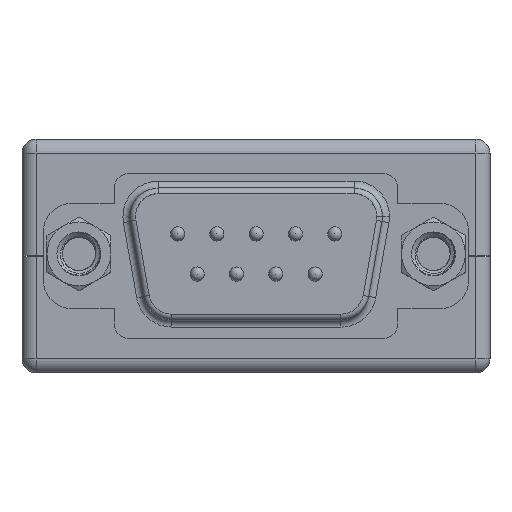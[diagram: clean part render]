
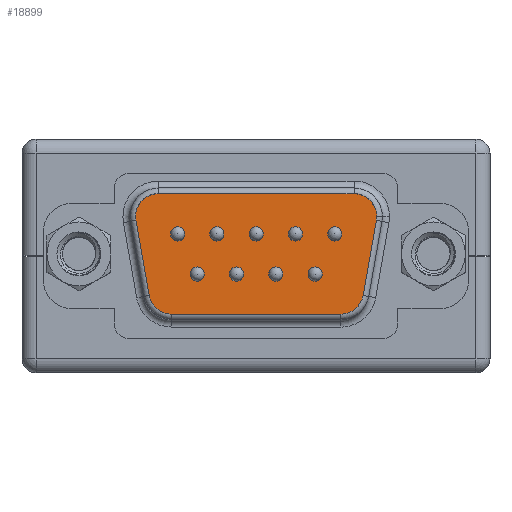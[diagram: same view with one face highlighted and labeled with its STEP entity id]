
A CAD part, top view. The second image highlights one B-rep face of the part: STEP entity #18899.
In plain terms, the highlighted planar face has unit normal (0, 0, 1).
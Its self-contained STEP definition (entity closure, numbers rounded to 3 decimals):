
#358=FACE_BOUND('',#2236,.T.);
#359=FACE_BOUND('',#2237,.T.);
#360=FACE_BOUND('',#2238,.T.);
#361=FACE_BOUND('',#2239,.T.);
#362=FACE_BOUND('',#2240,.T.);
#363=FACE_BOUND('',#2241,.T.);
#364=FACE_BOUND('',#2242,.T.);
#365=FACE_BOUND('',#2243,.T.);
#366=FACE_BOUND('',#2244,.T.);
#430=PLANE('',#20146);
#1079=FACE_OUTER_BOUND('',#2235,.T.);
#2235=EDGE_LOOP('',(#12809,#12810,#12811,#12812,#12813,#12814,#12815,#12816,
#12817));
#2236=EDGE_LOOP('',(#12818));
#2237=EDGE_LOOP('',(#12819));
#2238=EDGE_LOOP('',(#12820));
#2239=EDGE_LOOP('',(#12821));
#2240=EDGE_LOOP('',(#12822));
#2241=EDGE_LOOP('',(#12823));
#2242=EDGE_LOOP('',(#12824));
#2243=EDGE_LOOP('',(#12825));
#2244=EDGE_LOOP('',(#12826));
#3408=CIRCLE('',#20079,0.5);
#3410=CIRCLE('',#20082,0.5);
#3412=CIRCLE('',#20085,0.5);
#3414=CIRCLE('',#20088,0.5);
#3416=CIRCLE('',#20091,0.5);
#3418=CIRCLE('',#20094,0.5);
#3420=CIRCLE('',#20097,0.5);
#3422=CIRCLE('',#20100,0.5);
#3424=CIRCLE('',#20103,0.5);
#3454=CIRCLE('',#20147,2.5);
#3455=CIRCLE('',#20148,2.5);
#3456=CIRCLE('',#20149,2.5);
#3457=CIRCLE('',#20150,2.5);
#3458=CIRCLE('',#20151,2.5);
#4620=LINE('',#29350,#6236);
#4621=LINE('',#29354,#6237);
#4622=LINE('',#29358,#6238);
#4623=LINE('',#29363,#6239);
#6236=VECTOR('',#22180,1000.);
#6237=VECTOR('',#22183,1000.);
#6238=VECTOR('',#22186,1000.);
#6239=VECTOR('',#22191,1000.);
#7885=VERTEX_POINT('',#29204);
#7887=VERTEX_POINT('',#29210);
#7889=VERTEX_POINT('',#29216);
#7891=VERTEX_POINT('',#29222);
#7893=VERTEX_POINT('',#29228);
#7895=VERTEX_POINT('',#29234);
#7897=VERTEX_POINT('',#29240);
#7899=VERTEX_POINT('',#29246);
#7901=VERTEX_POINT('',#29252);
#7935=VERTEX_POINT('',#29346);
#7936=VERTEX_POINT('',#29347);
#7937=VERTEX_POINT('',#29349);
#7938=VERTEX_POINT('',#29351);
#7939=VERTEX_POINT('',#29353);
#7940=VERTEX_POINT('',#29355);
#7941=VERTEX_POINT('',#29357);
#7942=VERTEX_POINT('',#29359);
#7943=VERTEX_POINT('',#29361);
#9748=EDGE_CURVE('',#7885,#7885,#3408,.T.);
#9751=EDGE_CURVE('',#7887,#7887,#3410,.T.);
#9754=EDGE_CURVE('',#7889,#7889,#3412,.T.);
#9757=EDGE_CURVE('',#7891,#7891,#3414,.T.);
#9760=EDGE_CURVE('',#7893,#7893,#3416,.T.);
#9763=EDGE_CURVE('',#7895,#7895,#3418,.T.);
#9766=EDGE_CURVE('',#7897,#7897,#3420,.T.);
#9769=EDGE_CURVE('',#7899,#7899,#3422,.T.);
#9772=EDGE_CURVE('',#7901,#7901,#3424,.T.);
#9818=EDGE_CURVE('',#7935,#7936,#3454,.T.);
#9819=EDGE_CURVE('',#7937,#7935,#4620,.T.);
#9820=EDGE_CURVE('',#7938,#7937,#3455,.T.);
#9821=EDGE_CURVE('',#7939,#7938,#4621,.T.);
#9822=EDGE_CURVE('',#7940,#7939,#3456,.T.);
#9823=EDGE_CURVE('',#7941,#7940,#4622,.T.);
#9824=EDGE_CURVE('',#7942,#7941,#3457,.T.);
#9825=EDGE_CURVE('',#7943,#7942,#3458,.T.);
#9826=EDGE_CURVE('',#7936,#7943,#4623,.T.);
#12809=ORIENTED_EDGE('',*,*,#9818,.F.);
#12810=ORIENTED_EDGE('',*,*,#9819,.F.);
#12811=ORIENTED_EDGE('',*,*,#9820,.F.);
#12812=ORIENTED_EDGE('',*,*,#9821,.F.);
#12813=ORIENTED_EDGE('',*,*,#9822,.F.);
#12814=ORIENTED_EDGE('',*,*,#9823,.F.);
#12815=ORIENTED_EDGE('',*,*,#9824,.F.);
#12816=ORIENTED_EDGE('',*,*,#9825,.F.);
#12817=ORIENTED_EDGE('',*,*,#9826,.F.);
#12818=ORIENTED_EDGE('',*,*,#9748,.F.);
#12819=ORIENTED_EDGE('',*,*,#9751,.F.);
#12820=ORIENTED_EDGE('',*,*,#9754,.F.);
#12821=ORIENTED_EDGE('',*,*,#9757,.F.);
#12822=ORIENTED_EDGE('',*,*,#9760,.F.);
#12823=ORIENTED_EDGE('',*,*,#9763,.F.);
#12824=ORIENTED_EDGE('',*,*,#9766,.F.);
#12825=ORIENTED_EDGE('',*,*,#9769,.F.);
#12826=ORIENTED_EDGE('',*,*,#9772,.F.);
#18899=ADVANCED_FACE('',(#1079,#358,#359,#360,#361,#362,#363,#364,#365,
#366),#430,.T.);
#20079=AXIS2_PLACEMENT_3D('',#29205,#22018,#22019);
#20082=AXIS2_PLACEMENT_3D('',#29211,#22025,#22026);
#20085=AXIS2_PLACEMENT_3D('',#29217,#22032,#22033);
#20088=AXIS2_PLACEMENT_3D('',#29223,#22039,#22040);
#20091=AXIS2_PLACEMENT_3D('',#29229,#22046,#22047);
#20094=AXIS2_PLACEMENT_3D('',#29235,#22053,#22054);
#20097=AXIS2_PLACEMENT_3D('',#29241,#22060,#22061);
#20100=AXIS2_PLACEMENT_3D('',#29247,#22067,#22068);
#20103=AXIS2_PLACEMENT_3D('',#29253,#22074,#22075);
#20146=AXIS2_PLACEMENT_3D('',#29345,#22176,#22177);
#20147=AXIS2_PLACEMENT_3D('',#29348,#22178,#22179);
#20148=AXIS2_PLACEMENT_3D('',#29352,#22181,#22182);
#20149=AXIS2_PLACEMENT_3D('',#29356,#22184,#22185);
#20150=AXIS2_PLACEMENT_3D('',#29360,#22187,#22188);
#20151=AXIS2_PLACEMENT_3D('',#29362,#22189,#22190);
#22018=DIRECTION('center_axis',(0.,0.,
1.));
#22019=DIRECTION('ref_axis',(-1.,0.,0.));
#22025=DIRECTION('center_axis',(0.,0.,
1.));
#22026=DIRECTION('ref_axis',(-1.,0.,0.));
#22032=DIRECTION('center_axis',(0.,0.,
1.));
#22033=DIRECTION('ref_axis',(-1.,0.,0.));
#22039=DIRECTION('center_axis',(0.,0.,
1.));
#22040=DIRECTION('ref_axis',(-1.,0.,0.));
#22046=DIRECTION('center_axis',(0.,0.,
1.));
#22047=DIRECTION('ref_axis',(-1.,0.,0.));
#22053=DIRECTION('center_axis',(0.,0.,
1.));
#22054=DIRECTION('ref_axis',(-1.,0.,0.));
#22060=DIRECTION('center_axis',(0.,0.,
1.));
#22061=DIRECTION('ref_axis',(-1.,0.,0.));
#22067=DIRECTION('center_axis',(0.,0.,
1.));
#22068=DIRECTION('ref_axis',(-1.,0.,0.));
#22074=DIRECTION('center_axis',(0.,0.,
1.));
#22075=DIRECTION('ref_axis',(-1.,0.,0.));
#22176=DIRECTION('center_axis',(0.,0.,
1.));
#22177=DIRECTION('ref_axis',(1.,0.,0.));
#22178=DIRECTION('center_axis',(0.,0.,
-1.));
#22179=DIRECTION('ref_axis',(0.,1.,0.));
#22180=DIRECTION('',(-0.174,0.985,0.));
#22181=DIRECTION('center_axis',(0.,0.,
-1.));
#22182=DIRECTION('ref_axis',(-0.985,-0.174,0.));
#22183=DIRECTION('',(-1.,0.,0.));
#22184=DIRECTION('center_axis',(0.,0.,
-1.));
#22185=DIRECTION('ref_axis',(0.,-1.,0.));
#22186=DIRECTION('',(-0.174,-0.985,0.));
#22187=DIRECTION('center_axis',(0.,0.,
-1.));
#22188=DIRECTION('ref_axis',(0.985,-0.174,0.));
#22189=DIRECTION('center_axis',(0.,0.,
-1.));
#22190=DIRECTION('ref_axis',(1.,0.,0.));
#22191=DIRECTION('',(1.,0.,0.));
#29204=CARTESIAN_POINT('',(-3.643,-1.283,0.159));
#29205=CARTESIAN_POINT('Origin',(-4.143,-1.283,0.159));
#29210=CARTESIAN_POINT('',(-5.028,1.557,0.159));
#29211=CARTESIAN_POINT('Origin',(-5.528,1.557,0.159));
#29216=CARTESIAN_POINT('',(-2.258,1.557,0.159));
#29217=CARTESIAN_POINT('Origin',(-2.758,1.557,0.159));
#29222=CARTESIAN_POINT('',(4.667,-1.283,0.159));
#29223=CARTESIAN_POINT('Origin',(4.167,-1.283,0.159));
#29228=CARTESIAN_POINT('',(6.052,1.557,0.159));
#29229=CARTESIAN_POINT('Origin',(5.552,1.557,0.159));
#29234=CARTESIAN_POINT('',(-0.873,-1.283,0.159));
#29235=CARTESIAN_POINT('Origin',(-1.373,-1.283,0.159));
#29240=CARTESIAN_POINT('',(1.897,-1.283,0.159));
#29241=CARTESIAN_POINT('Origin',(1.397,-1.283,0.159));
#29246=CARTESIAN_POINT('',(3.282,1.557,0.159));
#29247=CARTESIAN_POINT('Origin',(2.782,1.557,0.159));
#29252=CARTESIAN_POINT('',(0.512,1.557,0.159));
#29253=CARTESIAN_POINT('Origin',(0.012,1.557,0.159));
#29345=CARTESIAN_POINT('Origin',(-15.388,-6.113,0.159));
#29346=CARTESIAN_POINT('',(-9.35,2.353,0.159));
#29347=CARTESIAN_POINT('',(-6.888,5.287,0.159));
#29348=CARTESIAN_POINT('Origin',(-6.888,2.787,0.159));
#29349=CARTESIAN_POINT('',(-8.415,-2.947,0.159));
#29350=CARTESIAN_POINT('',(-8.415,-2.947,0.159));
#29351=CARTESIAN_POINT('',(-5.953,-5.013,0.159));
#29352=CARTESIAN_POINT('Origin',(-5.953,-2.513,0.159));
#29353=CARTESIAN_POINT('',(5.978,-5.013,0.159));
#29354=CARTESIAN_POINT('',(-15.388,-5.013,0.159));
#29355=CARTESIAN_POINT('',(8.44,-2.947,0.159));
#29356=CARTESIAN_POINT('Origin',(5.978,-2.513,0.159));
#29357=CARTESIAN_POINT('',(9.374,2.353,0.159));
#29358=CARTESIAN_POINT('',(9.374,2.353,0.159));
#29359=CARTESIAN_POINT('',(9.412,2.787,0.159));
#29360=CARTESIAN_POINT('Origin',(6.912,2.787,0.159));
#29361=CARTESIAN_POINT('',(6.912,5.287,0.159));
#29362=CARTESIAN_POINT('Origin',(6.912,2.787,0.159));
#29363=CARTESIAN_POINT('',(-15.388,5.287,0.159));
